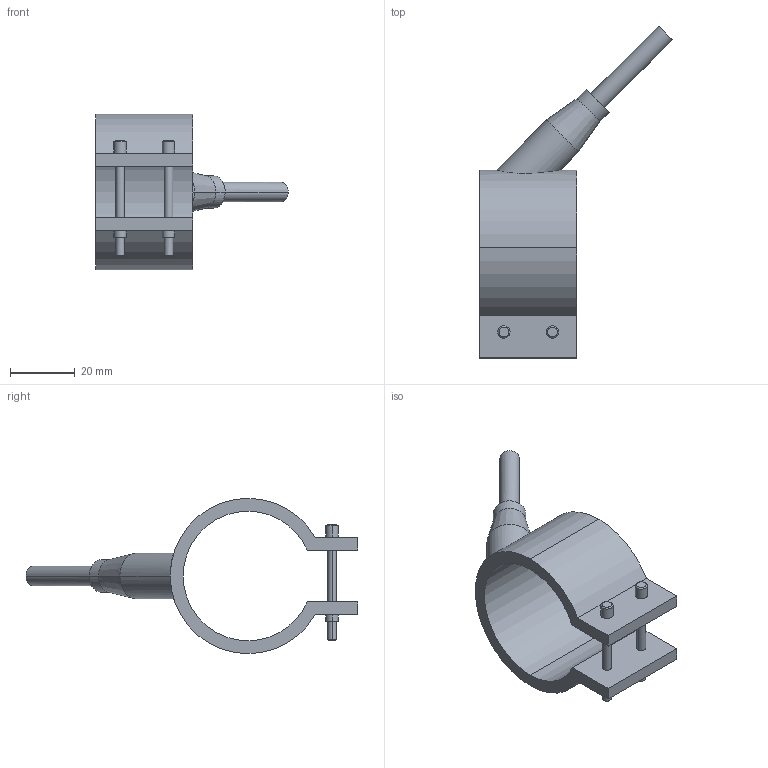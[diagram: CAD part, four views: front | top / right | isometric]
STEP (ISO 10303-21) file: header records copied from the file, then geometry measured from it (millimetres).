
FILE_DESCRIPTION(('CATIA V5 STEP Exchange'),'2;1');
FILE_NAME('C:\Users\Utente\Desktop\IO LAVORO\3D X SITO CF\X SITO\PLASTICA\RF1\29040030.stp','2021-03-27T08:57:40+00:00',('none'),('none'),'CATIA Version 5 Release 20 GA (IN-10)','CATIA V5 STEP AP203','none');
FILE_SCHEMA(('CONFIG_CONTROL_DESIGN'));
Length unit declared in the file: millimetre
Products named in the file (1): 29040030
Bounding box: 59.55 x 102.55 x 48 mm (x, y, z)
Volume: 22747.6 mm3; surface area: 12338.5 mm2
Topology: 1 solids, 1 shells, 54 faces, 124 edges, 80 vertices
Faces by surface type: cylinder 28, plane 16, cone 10
Entity records: 1730 total; most frequent: CARTESIAN_POINT 495, ORIENTED_EDGE 248, DIRECTION 212, EDGE_CURVE 124, AXIS2_PLACEMENT_3D 105, VERTEX_POINT 80, EDGE_LOOP 66, VECTOR 56
